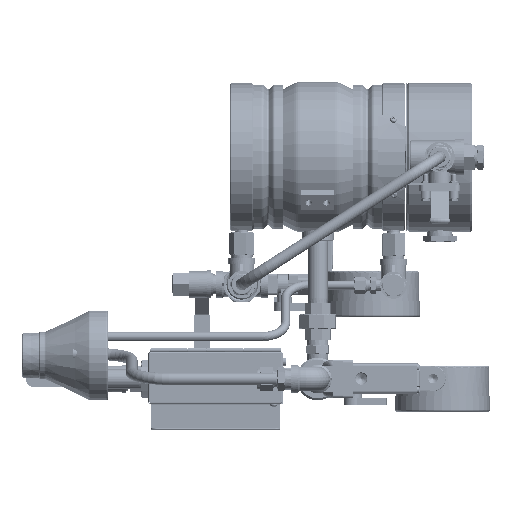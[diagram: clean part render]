
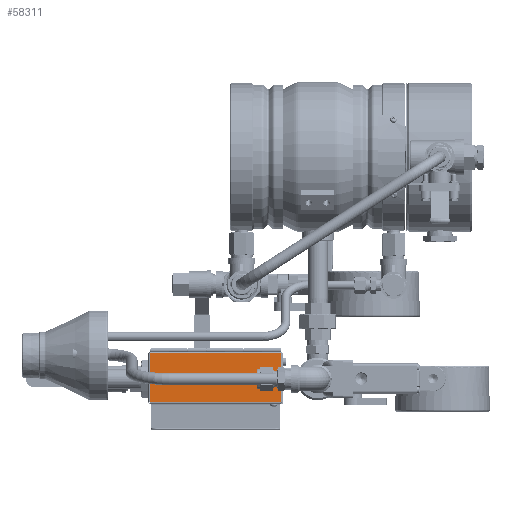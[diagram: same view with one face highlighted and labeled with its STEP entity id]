
A CAD part, front view. The second image highlights one B-rep face of the part: STEP entity #58311.
In plain terms, the highlighted planar face has unit normal (-0.001, -1, 0) as drawn and (-1, 0, 0) by its records, which use the part's own axes.
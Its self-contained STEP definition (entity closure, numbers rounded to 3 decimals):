
#4677=LINE('',#102731,#8827);
#4778=LINE('',#103072,#8928);
#4789=LINE('',#103250,#8939);
#4795=LINE('',#103291,#8945);
#8827=VECTOR('',#74565,10.);
#8928=VECTOR('',#74840,10.);
#8939=VECTOR('',#74863,10.);
#8945=VECTOR('',#74899,10.);
#13155=PLANE('',#65194);
#16972=FACE_OUTER_BOUND('',#21208,.T.);
#21208=EDGE_LOOP('',(#45858,#45859,#45860,#45861));
#28238=VERTEX_POINT('',#102528);
#28246=VERTEX_POINT('',#102713);
#28328=VERTEX_POINT('',#103053);
#28333=VERTEX_POINT('',#103233);
#34603=EDGE_CURVE('',#28246,#28238,#4677,.T.);
#34740=EDGE_CURVE('',#28238,#28328,#4778,.T.);
#34758=EDGE_CURVE('',#28333,#28328,#4789,.T.);
#34769=EDGE_CURVE('',#28246,#28333,#4795,.T.);
#45858=ORIENTED_EDGE('',*,*,#34758,.T.);
#45859=ORIENTED_EDGE('',*,*,#34740,.F.);
#45860=ORIENTED_EDGE('',*,*,#34603,.F.);
#45861=ORIENTED_EDGE('',*,*,#34769,.T.);
#58311=ADVANCED_FACE('',(#16972),#13155,.F.);
#65194=AXIS2_PLACEMENT_3D('',#103292,#74900,#74901);
#74565=DIRECTION('',(0.,0.,-1.));
#74840=DIRECTION('',(0.,1.,0.));
#74863=DIRECTION('',(0.,0.,-1.));
#74899=DIRECTION('',(0.,1.,0.));
#74900=DIRECTION('center_axis',(1.,0.,0.));
#74901=DIRECTION('ref_axis',(0.,0.,-1.));
#102528=CARTESIAN_POINT('',(-53.036,-69.7,1.8));
#102713=CARTESIAN_POINT('',(-53.036,-69.7,53.7));
#102731=CARTESIAN_POINT('',(-53.036,-69.7,14.775));
#103053=CARTESIAN_POINT('',(-53.036,69.7,1.8));
#103072=CARTESIAN_POINT('',(-53.036,71.5,1.8));
#103233=CARTESIAN_POINT('',(-53.036,69.7,53.7));
#103250=CARTESIAN_POINT('',(-53.036,69.7,14.775));
#103291=CARTESIAN_POINT('',(-53.036,53.625,53.7));
#103292=CARTESIAN_POINT('Origin',(-53.036,35.75,27.75));
